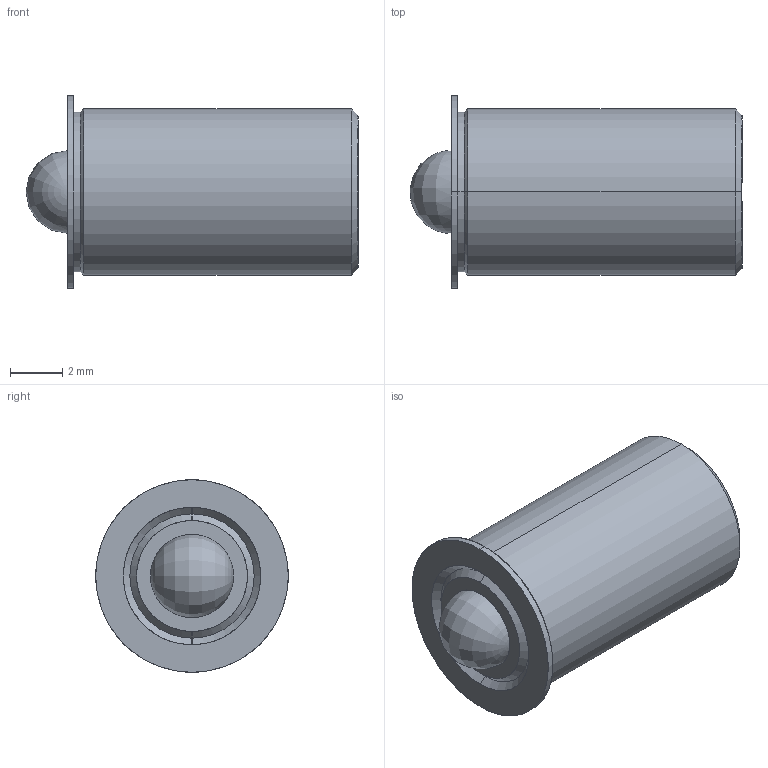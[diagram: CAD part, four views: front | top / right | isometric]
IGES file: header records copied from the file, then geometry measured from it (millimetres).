
Start section: SolidWorks IGES file using analytic representation for surfaces
Global section: file name: C:\Users\workpc\Desktop\KMA Solidworks\TSB187-100-500_437.IGS; native system: SolidWorks 2013; preprocessor: SolidWorks 2013; author: workpc; date: 130313.091247; units: inch
Bounding box: 12.69 x 7.37 x 7.37 mm (x, y, z)
Surface area: 667.6 mm2 (no closed solid volume)
Topology: 0 solids, 0 shells, 35 faces, 414 edges, 410 vertices
Faces by surface type: revolution 24, bspline 11
